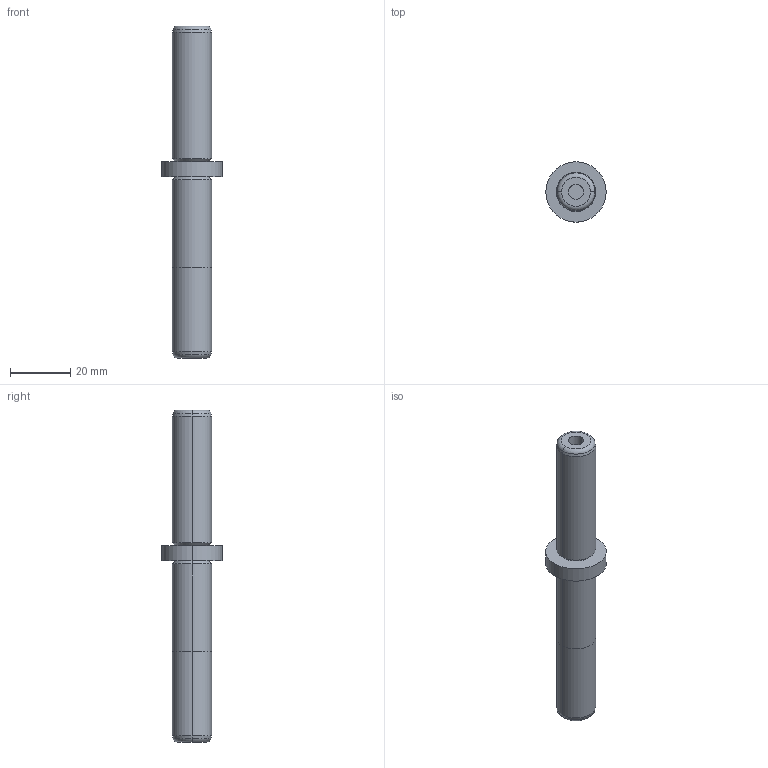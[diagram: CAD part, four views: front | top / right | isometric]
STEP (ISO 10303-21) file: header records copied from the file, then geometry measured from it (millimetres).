
FILE_DESCRIPTION(/* description */ (''),/* implementation_level */ '2;1');
FILE_NAME(/* name */ '3d_sgpwh13-60-50-b30_05308_r00.stp',/* time_stamp */ '2011-01-10T14:11:02+09:00',/* author */ ('MISUMI'),/* organization */ (''),/* preprocessor_version */ 'ST-DEVELOPER v11',/* originating_system */ 'UGS - NX 5.0',/* authorisation */ '');
FILE_SCHEMA (('CONFIG_CONTROL_DESIGN'));
Length unit declared in the file: millimetre
Products named in the file (1): 3d_sgpwh13-60-50-b30_05308_r00
Bounding box: 20 x 20 x 110 mm (x, y, z)
Volume: 14544 mm3; surface area: 5952.4 mm2
Topology: 1 solids, 1 shells, 30 faces, 58 edges, 34 vertices
Faces by surface type: cylinder 12, cone 8, plane 6, torus 4
Entity records: 854 total; most frequent: DIRECTION 158, CARTESIAN_POINT 123, ORIENTED_EDGE 116, AXIS2_PLACEMENT_3D 69, EDGE_CURVE 58, CIRCLE 38, EDGE_LOOP 34, VERTEX_POINT 34
